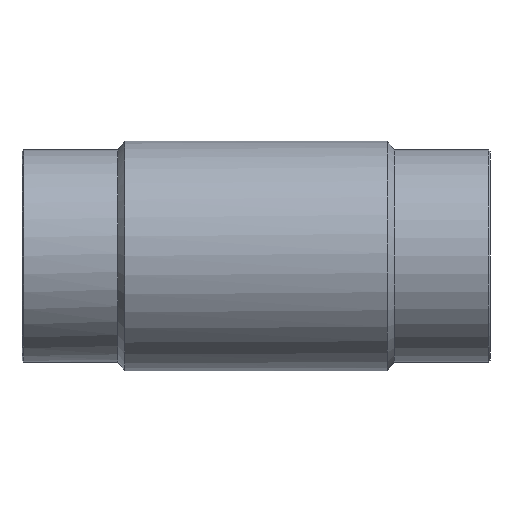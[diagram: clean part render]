
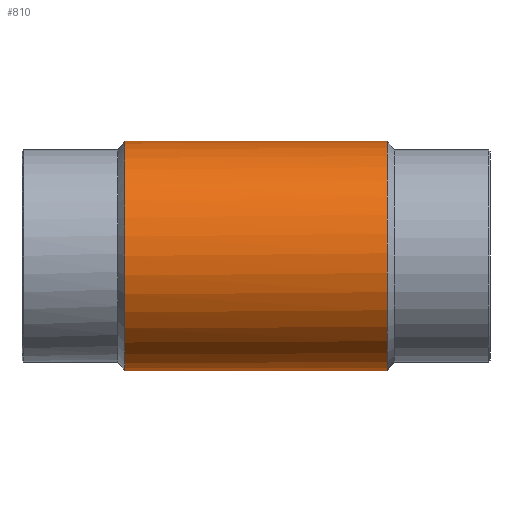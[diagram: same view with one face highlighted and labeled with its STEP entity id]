
A CAD part, front view. The second image highlights one B-rep face of the part: STEP entity #810.
In plain terms, the highlighted cylindrical face has radius 243 mm (diameter 486 mm), a partial arc.
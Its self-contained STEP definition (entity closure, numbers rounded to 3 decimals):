
#26=ELLIPSE('',#886,354.419,243.);
#29=ELLIPSE('',#891,354.419,243.);
#33=ELLIPSE('',#914,354.419,243.);
#34=ELLIPSE('',#915,354.419,243.);
#62=B_SPLINE_CURVE_WITH_KNOTS('',3,(#1247,#1248,#1249,#1250,#1251),
 .UNSPECIFIED.,.F.,.F.,(4,1,4),(0.,0.002,0.005),
 .UNSPECIFIED.);
#64=B_SPLINE_CURVE_WITH_KNOTS('',3,(#1288,#1289,#1290,#1291,#1292),
 .UNSPECIFIED.,.F.,.F.,(4,1,4),(0.,0.002,0.005),
 .UNSPECIFIED.);
#69=B_SPLINE_CURVE_WITH_KNOTS('',3,(#1488,#1489,#1490,#1491,#1492),
 .UNSPECIFIED.,.F.,.F.,(4,1,4),(0.,0.002,0.005),
 .UNSPECIFIED.);
#70=B_SPLINE_CURVE_WITH_KNOTS('',3,(#1493,#1494,#1495,#1496,#1497),
 .UNSPECIFIED.,.F.,.F.,(4,1,4),(0.,0.002,0.005),
 .UNSPECIFIED.);
#85=LINE('',#1316,#125);
#88=LINE('',#1344,#128);
#94=LINE('',#1486,#134);
#95=LINE('',#1499,#135);
#125=VECTOR('',#1032,1000.);
#128=VECTOR('',#1037,1000.);
#134=VECTOR('',#1115,1000.);
#135=VECTOR('',#1116,1000.);
#260=ORIENTED_EDGE('',*,*,#385,.T.);
#261=ORIENTED_EDGE('',*,*,#418,.T.);
#262=ORIENTED_EDGE('',*,*,#447,.T.);
#263=ORIENTED_EDGE('',*,*,#432,.T.);
#264=ORIENTED_EDGE('',*,*,#448,.F.);
#265=ORIENTED_EDGE('',*,*,#449,.T.);
#266=ORIENTED_EDGE('',*,*,#446,.T.);
#267=ORIENTED_EDGE('',*,*,#450,.T.);
#268=ORIENTED_EDGE('',*,*,#451,.T.);
#269=ORIENTED_EDGE('',*,*,#452,.T.);
#270=ORIENTED_EDGE('',*,*,#425,.T.);
#271=ORIENTED_EDGE('',*,*,#413,.F.);
#272=ORIENTED_EDGE('',*,*,#401,.T.);
#273=ORIENTED_EDGE('',*,*,#439,.F.);
#385=EDGE_CURVE('',#499,#500,#62,.T.);
#401=EDGE_CURVE('',#511,#512,#64,.T.);
#413=EDGE_CURVE('',#511,#519,#85,.T.);
#418=EDGE_CURVE('',#500,#522,#88,.T.);
#425=EDGE_CURVE('',#523,#519,#26,.F.);
#432=EDGE_CURVE('',#529,#527,#29,.T.);
#439=EDGE_CURVE('',#499,#512,#589,.T.);
#446=EDGE_CURVE('',#541,#540,#596,.T.);
#447=EDGE_CURVE('',#522,#529,#33,.F.);
#448=EDGE_CURVE('',#542,#527,#94,.T.);
#449=EDGE_CURVE('',#542,#541,#69,.T.);
#450=EDGE_CURVE('',#540,#543,#70,.T.);
#451=EDGE_CURVE('',#543,#544,#95,.T.);
#452=EDGE_CURVE('',#544,#523,#34,.T.);
#499=VERTEX_POINT('',#1252);
#500=VERTEX_POINT('',#1253);
#511=VERTEX_POINT('',#1293);
#512=VERTEX_POINT('',#1294);
#519=VERTEX_POINT('',#1317);
#522=VERTEX_POINT('',#1343);
#523=VERTEX_POINT('',#1390);
#527=VERTEX_POINT('',#1447);
#529=VERTEX_POINT('',#1450);
#540=VERTEX_POINT('',#1481);
#541=VERTEX_POINT('',#1482);
#542=VERTEX_POINT('',#1487);
#543=VERTEX_POINT('',#1498);
#544=VERTEX_POINT('',#1500);
#589=CIRCLE('',#900,243.);
#596=CIRCLE('',#912,243.);
#654=EDGE_LOOP('',(#260,#261,#262,#263,#264,#265,#266,#267,#268,#269,#270,
#271,#272,#273));
#724=FACE_BOUND('',#654,.T.);
#771=CYLINDRICAL_SURFACE('',#913,243.);
#810=ADVANCED_FACE('',(#724),#771,.T.);
#886=AXIS2_PLACEMENT_3D('',#1389,#1056,#1057);
#891=AXIS2_PLACEMENT_3D('',#1449,#1067,#1068);
#900=AXIS2_PLACEMENT_3D('',#1464,#1085,#1086);
#912=AXIS2_PLACEMENT_3D('',#1483,#1109,#1110);
#913=AXIS2_PLACEMENT_3D('',#1484,#1111,#1112);
#914=AXIS2_PLACEMENT_3D('',#1485,#1113,#1114);
#915=AXIS2_PLACEMENT_3D('',#1501,#1117,#1118);
#1032=DIRECTION('',(1.,0.,0.));
#1037=DIRECTION('',(1.,0.,0.));
#1056=DIRECTION('',(0.686,0.728,0.));
#1057=DIRECTION('',(-0.728,0.686,0.));
#1067=DIRECTION('',(0.686,-0.728,0.));
#1068=DIRECTION('',(-0.728,-0.686,0.));
#1085=DIRECTION('',(-1.,0.,0.));
#1086=DIRECTION('',(0.,0.,1.));
#1109=DIRECTION('',(-1.,0.,0.));
#1110=DIRECTION('',(0.,0.,1.));
#1111=DIRECTION('',(-1.,0.,0.));
#1112=DIRECTION('',(0.,0.,1.));
#1113=DIRECTION('',(0.686,0.728,0.));
#1114=DIRECTION('',(-0.728,0.686,0.));
#1115=DIRECTION('',(-1.,0.,0.));
#1116=DIRECTION('',(-1.,0.,0.));
#1117=DIRECTION('',(0.686,-0.728,0.));
#1118=DIRECTION('',(-0.728,-0.686,0.));
#1247=CARTESIAN_POINT('',(-277.5,242.405,-17.));
#1248=CARTESIAN_POINT('',(-277.5,242.349,-17.792));
#1249=CARTESIAN_POINT('',(-276.85,242.231,-19.343));
#1250=CARTESIAN_POINT('',(-275.294,242.176,-20.));
#1251=CARTESIAN_POINT('',(-274.5,242.176,-20.));
#1252=CARTESIAN_POINT('',(-277.5,242.405,-17.));
#1253=CARTESIAN_POINT('',(-274.5,242.176,-20.));
#1288=CARTESIAN_POINT('',(-274.5,242.176,20.));
#1289=CARTESIAN_POINT('',(-275.293,242.176,20.));
#1290=CARTESIAN_POINT('',(-276.847,242.231,19.346));
#1291=CARTESIAN_POINT('',(-277.5,242.349,17.791));
#1292=CARTESIAN_POINT('',(-277.5,242.405,17.));
#1293=CARTESIAN_POINT('',(-274.5,242.176,20.));
#1294=CARTESIAN_POINT('',(-277.5,242.405,17.));
#1316=CARTESIAN_POINT('',(60.,242.176,20.));
#1317=CARTESIAN_POINT('',(-257.125,242.176,20.));
#1343=CARTESIAN_POINT('',(-257.125,242.176,-20.));
#1344=CARTESIAN_POINT('',(60.,242.176,-20.));
#1389=CARTESIAN_POINT('',(0.,0.,0.));
#1390=CARTESIAN_POINT('',(0.,0.,243.));
#1447=CARTESIAN_POINT('',(257.125,242.176,-20.));
#1449=CARTESIAN_POINT('',(0.,0.,0.));
#1450=CARTESIAN_POINT('',(0.,0.,-243.));
#1464=CARTESIAN_POINT('',(-277.5,0.,0.));
#1481=CARTESIAN_POINT('',(277.5,242.405,17.));
#1482=CARTESIAN_POINT('',(277.5,242.405,-17.));
#1483=CARTESIAN_POINT('',(277.5,0.,0.));
#1484=CARTESIAN_POINT('',(-60.,0.,0.));
#1485=CARTESIAN_POINT('',(0.,0.,0.));
#1486=CARTESIAN_POINT('',(-60.,242.176,-20.));
#1487=CARTESIAN_POINT('',(274.5,242.176,-20.));
#1488=CARTESIAN_POINT('',(274.5,242.176,-20.));
#1489=CARTESIAN_POINT('',(275.293,242.176,-20.));
#1490=CARTESIAN_POINT('',(276.847,242.231,-19.346));
#1491=CARTESIAN_POINT('',(277.5,242.349,-17.791));
#1492=CARTESIAN_POINT('',(277.5,242.405,-17.));
#1493=CARTESIAN_POINT('',(277.5,242.405,17.));
#1494=CARTESIAN_POINT('',(277.5,242.349,17.792));
#1495=CARTESIAN_POINT('',(276.85,242.231,19.343));
#1496=CARTESIAN_POINT('',(275.294,242.176,20.));
#1497=CARTESIAN_POINT('',(274.5,242.176,20.));
#1498=CARTESIAN_POINT('',(274.5,242.176,20.));
#1499=CARTESIAN_POINT('',(-60.,242.176,20.));
#1500=CARTESIAN_POINT('',(257.125,242.176,20.));
#1501=CARTESIAN_POINT('',(0.,0.,0.));
